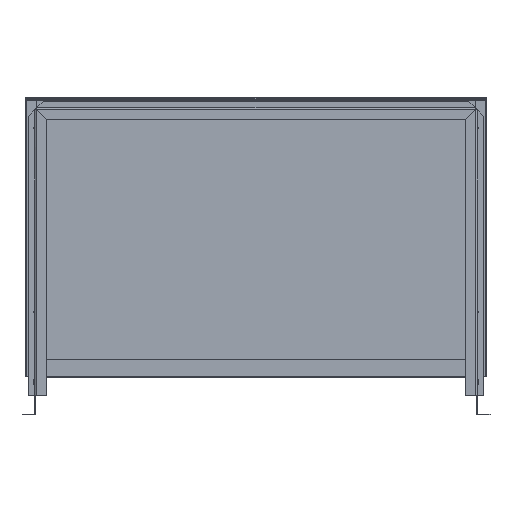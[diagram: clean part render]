
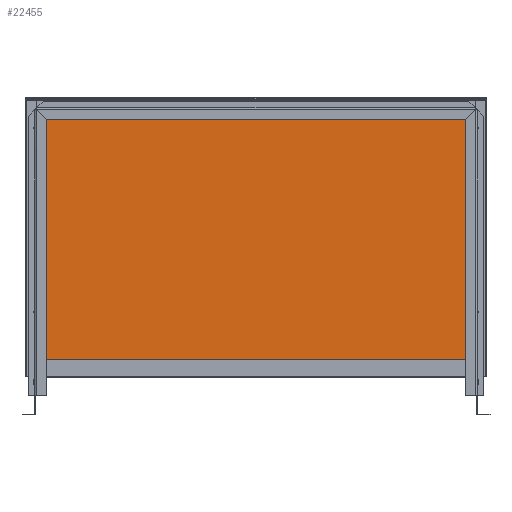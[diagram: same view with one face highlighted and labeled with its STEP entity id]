
A CAD part, front view. The second image highlights one B-rep face of the part: STEP entity #22455.
In plain terms, the highlighted planar face has unit normal (0, -1, 0).
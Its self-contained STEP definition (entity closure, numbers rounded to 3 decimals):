
#16622=CARTESIAN_POINT('',(497.271,0.8,647.2));
#16623=VERTEX_POINT('',#16622);
#16630=CARTESIAN_POINT('',(475.,0.8,624.929));
#16631=VERTEX_POINT('',#16630);
#16632=CARTESIAN_POINT('',(497.271,0.8,647.2));
#16633=DIRECTION('',(-0.707,0.,-0.707));
#16634=VECTOR('',#16633,31.496);
#16635=LINE('',#16632,#16634);
#16636=EDGE_CURVE('',#16623,#16631,#16635,.T.);
#16687=CARTESIAN_POINT('',(475.,0.8,81.8));
#16688=VERTEX_POINT('',#16687);
#16821=CARTESIAN_POINT('',(475.,0.8,81.8));
#16822=DIRECTION('',(-0.,0.,1.));
#16823=VECTOR('',#16822,543.129);
#16824=LINE('',#16821,#16823);
#16825=EDGE_CURVE('',#16688,#16631,#16824,.T.);
#17457=CARTESIAN_POINT('',(474.929,0.8,625.));
#17458=VERTEX_POINT('',#17457);
#17465=CARTESIAN_POINT('',(497.129,0.8,647.2));
#17466=VERTEX_POINT('',#17465);
#17467=CARTESIAN_POINT('',(474.929,0.8,625.));
#17468=DIRECTION('',(0.707,-0.,0.707));
#17469=VECTOR('',#17468,31.396);
#17470=LINE('',#17467,#17469);
#17471=EDGE_CURVE('',#17458,#17466,#17470,.T.);
#18735=CARTESIAN_POINT('',(-497.129,0.8,647.2));
#18736=VERTEX_POINT('',#18735);
#19815=CARTESIAN_POINT('',(-474.929,0.8,625.));
#19816=VERTEX_POINT('',#19815);
#19823=CARTESIAN_POINT('',(474.929,0.8,625.));
#19824=DIRECTION('',(-1.,0.,0.));
#19825=VECTOR('',#19824,949.859);
#19826=LINE('',#19823,#19825);
#19827=EDGE_CURVE('',#17458,#19816,#19826,.T.);
#19858=CARTESIAN_POINT('',(-497.129,0.8,647.2));
#19859=DIRECTION('',(0.707,0.,-0.707));
#19860=VECTOR('',#19859,31.396);
#19861=LINE('',#19858,#19860);
#19862=EDGE_CURVE('',#18736,#19816,#19861,.T.);
#22285=CARTESIAN_POINT('',(-475.,0.8,624.929));
#22286=VERTEX_POINT('',#22285);
#22293=CARTESIAN_POINT('',(-497.271,0.8,647.2));
#22294=VERTEX_POINT('',#22293);
#22295=CARTESIAN_POINT('',(-475.,0.8,624.929));
#22296=DIRECTION('',(-0.707,-0.,0.707));
#22297=VECTOR('',#22296,31.496);
#22298=LINE('',#22295,#22297);
#22299=EDGE_CURVE('',#22286,#22294,#22298,.T.);
#22316=CARTESIAN_POINT('',(-475.,0.8,81.8));
#22317=VERTEX_POINT('',#22316);
#22384=CARTESIAN_POINT('',(-475.,0.8,624.929));
#22385=DIRECTION('',(-0.,0.,-1.));
#22386=VECTOR('',#22385,543.129);
#22387=LINE('',#22384,#22386);
#22388=EDGE_CURVE('',#22286,#22317,#22387,.T.);
#22423=CARTESIAN_POINT('',(0.,0.8,0.));
#22424=DIRECTION('',(0.,1.,0.));
#22425=DIRECTION('',(-1.,0.,0.));
#22426=AXIS2_PLACEMENT_3D('',#22423,#22424,#22425);
#22427=PLANE('',#22426);
#22428=CARTESIAN_POINT('',(475.,0.8,81.8));
#22429=DIRECTION('',(-1.,0.,0.));
#22430=VECTOR('',#22429,950.);
#22431=LINE('',#22428,#22430);
#22432=EDGE_CURVE('',#16688,#22317,#22431,.T.);
#22433=ORIENTED_EDGE('',*,*,#22432,.F.);
#22434=ORIENTED_EDGE('',*,*,#16825,.T.);
#22435=ORIENTED_EDGE('',*,*,#16636,.F.);
#22436=CARTESIAN_POINT('',(497.129,0.8,647.2));
#22437=DIRECTION('',(1.,0.,-0.));
#22438=VECTOR('',#22437,0.141);
#22439=LINE('',#22436,#22438);
#22440=EDGE_CURVE('',#17466,#16623,#22439,.T.);
#22441=ORIENTED_EDGE('',*,*,#22440,.F.);
#22442=ORIENTED_EDGE('',*,*,#17471,.F.);
#22443=ORIENTED_EDGE('',*,*,#19827,.T.);
#22444=ORIENTED_EDGE('',*,*,#19862,.F.);
#22445=CARTESIAN_POINT('',(-497.271,0.8,647.2));
#22446=DIRECTION('',(1.,0.,-0.));
#22447=VECTOR('',#22446,0.141);
#22448=LINE('',#22445,#22447);
#22449=EDGE_CURVE('',#22294,#18736,#22448,.T.);
#22450=ORIENTED_EDGE('',*,*,#22449,.F.);
#22451=ORIENTED_EDGE('',*,*,#22299,.F.);
#22452=ORIENTED_EDGE('',*,*,#22388,.T.);
#22453=EDGE_LOOP('',(#22433,#22434,#22435,#22441,#22442,#22443,#22444,#22450,#22451,#22452));
#22454=FACE_BOUND('',#22453,.T.);
#22455=ADVANCED_FACE('',(#22454),#22427,.F.);
